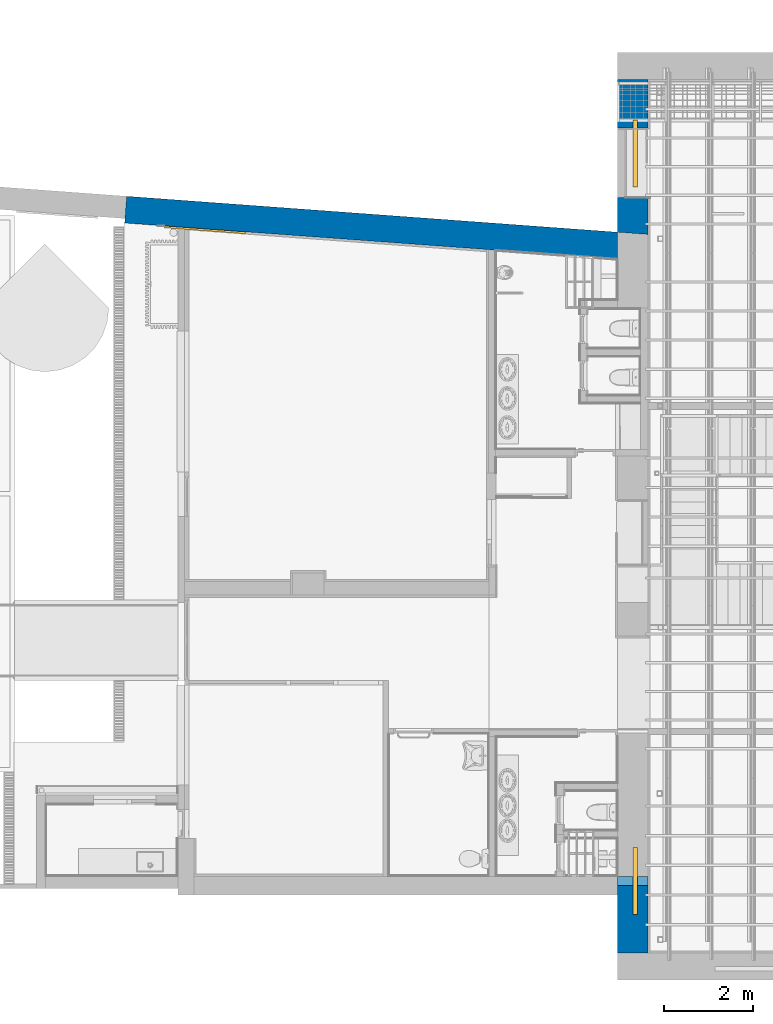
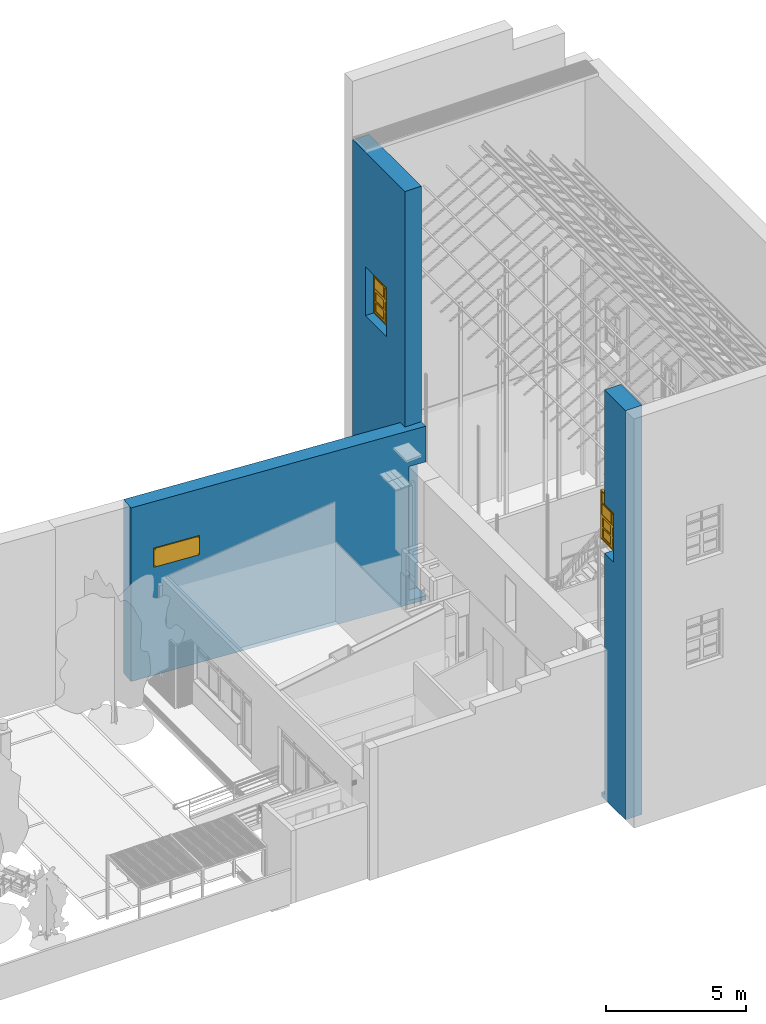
"""IFC2X3 building model written with IfcOpenShell, lengths in metres."""

from ifc_helpers import new_model, entity, si_unit, converted_unit, derived_unit, direction, frame, frame_2d, origin, origin_2d_with_axis, place, context, subcontext, project, spatial, polyline, rectangle, outline, extrude, faceted_brep, source, transform, mapped, material, material_list, layer, layer_set, type_object, type_shapes, element, fill, save


model = new_model("IFC2X3")

# Units and contexts
model_context = context("Model", 3, precision=1e-05, world=origin(), true_north=direction((6.12303176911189e-17, 1.0)))
body_context = subcontext(model_context, "Body", "Model", "MODEL_VIEW")
ifc_project = project(units=[si_unit("LENGTHUNIT", "METRE"), si_unit("AREAUNIT", "SQUARE_METRE"), si_unit("VOLUMEUNIT", "CUBIC_METRE"), converted_unit("PLANEANGLEUNIT", "DEGREE", entity("IfcRatioMeasure", 0.0174532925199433), si_unit("PLANEANGLEUNIT", "RADIAN"), dimensions=[0, 0, 0, 0, 0, 0, 0]), si_unit("MASSUNIT", "GRAM", prefix="KILO"), derived_unit("MASSDENSITYUNIT", [(si_unit("MASSUNIT", "GRAM", prefix="KILO"), 1), (si_unit("LENGTHUNIT", "METRE"), -3)]), derived_unit("MOMENTOFINERTIAUNIT", [(si_unit("LENGTHUNIT", "METRE"), 4)]), si_unit("TIMEUNIT", "SECOND"), si_unit("FREQUENCYUNIT", "HERTZ"), si_unit("THERMODYNAMICTEMPERATUREUNIT", "DEGREE_CELSIUS"), derived_unit("THERMALTRANSMITTANCEUNIT", [(si_unit("MASSUNIT", "GRAM", prefix="KILO"), 1), (si_unit("THERMODYNAMICTEMPERATUREUNIT", "KELVIN"), -1), (si_unit("TIMEUNIT", "SECOND"), -3)]), derived_unit("VOLUMETRICFLOWRATEUNIT", [(si_unit("LENGTHUNIT", "METRE"), 3), (si_unit("TIMEUNIT", "SECOND"), -1)]), si_unit("ELECTRICCURRENTUNIT", "AMPERE"), si_unit("ELECTRICVOLTAGEUNIT", "VOLT"), si_unit("POWERUNIT", "WATT"), si_unit("FORCEUNIT", "NEWTON", prefix="KILO"), si_unit("ILLUMINANCEUNIT", "LUX"), si_unit("LUMINOUSFLUXUNIT", "LUMEN"), si_unit("LUMINOUSINTENSITYUNIT", "CANDELA"), derived_unit("USERDEFINED", [(si_unit("MASSUNIT", "GRAM", prefix="KILO"), -1), (si_unit("LENGTHUNIT", "METRE"), -2), (si_unit("TIMEUNIT", "SECOND"), 3), (si_unit("LUMINOUSFLUXUNIT", "LUMEN"), 1)]), derived_unit("LINEARVELOCITYUNIT", [(si_unit("LENGTHUNIT", "METRE"), 1), (si_unit("TIMEUNIT", "SECOND"), -1)]), si_unit("PRESSUREUNIT", "PASCAL"), derived_unit("USERDEFINED", [(si_unit("LENGTHUNIT", "METRE"), -2), (si_unit("MASSUNIT", "GRAM", prefix="KILO"), 1), (si_unit("TIMEUNIT", "SECOND"), -2)]), derived_unit("LINEARFORCEUNIT", [(si_unit("MASSUNIT", "GRAM", prefix="KILO"), 1), (si_unit("LENGTHUNIT", "METRE"), 1), (si_unit("TIMEUNIT", "SECOND"), -2), (si_unit("LENGTHUNIT", "METRE"), -1)]), derived_unit("PLANARFORCEUNIT", [(si_unit("MASSUNIT", "GRAM", prefix="KILO"), 1), (si_unit("LENGTHUNIT", "METRE"), 1), (si_unit("TIMEUNIT", "SECOND"), -2), (si_unit("LENGTHUNIT", "METRE"), -2)])], contexts=[model_context])

# Site, building, storey
site_placement = place(None, origin())
site = spatial("IfcSite", under=ifc_project, at=site_placement, Name="Superficie", CompositionType="ELEMENT")
building_placement = place(site_placement, origin())
building = spatial("IfcBuilding", under=site, at=building_placement, Name="Telegestiones", CompositionType="ELEMENT")
storey_1_placement = place(building_placement, origin())
storey_1 = spatial("IfcBuildingStorey", under=building, at=storey_1_placement, Name="Nivel 0_NPT", CompositionType="ELEMENT", Elevation=0.0)

# Wall, opening, window
ifc_material_1 = material(Name="Muro por defecto")
ifc_layer_1 = layer(ifc_material_1, 0.6)
ifc_layer_set_1 = layer_set([ifc_layer_1], Name="Muro básico:ARQ-MU-EX-60-Gen")
wall_type_1 = type_object("IfcWallType", Name="Muro básico:ARQ-MU-EX-60-Gen", PredefinedType="STANDARD", material=ifc_layer_set_1)
wall_1_placement = place(storey_1_placement, frame((-5.65247574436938, 10.8297679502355, -0.2), z_axis=(0.0, 0.0, 1.0), x_axis=(0.997331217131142, -0.0730098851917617, 0.0)))
wall_1 = element("IfcWall", 1, at=wall_1_placement, inside=storey_1, type_object=wall_type_1, Name="Muro básico:ARQ-MU-EX-60-Gen", ObjectType="Muro básico:ARQ-MU-EX-60-Gen", context=body_context, shape_type="Brep", body=[
    faceted_brep([(11.74, -0.299999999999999, 7.6), (11.0581803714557, -0.300000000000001, 7.6), (0.0, -0.299999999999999, 7.6), (0.0, -0.299999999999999, 0.0), (1.19237352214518, -0.300000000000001, 0.0), (1.34277491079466, -0.300000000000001, 0.0), (11.74, -0.299999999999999, 0.0), (11.74, -0.299999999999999, 0.18), (11.0581803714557, -0.300000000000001, 0.18), (11.0581803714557, -0.300000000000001, 6.04), (11.74, -0.299999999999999, 6.04), (2.71194562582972, -0.299999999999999, 4.76), (0.891945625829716, -0.300000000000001, 4.76), (0.891945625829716, -0.300000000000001, 5.57), (2.71194562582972, -0.299999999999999, 5.57), (2.71194562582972, 0.300000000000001, 4.76), (2.71194562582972, 0.300000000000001, 5.57), (0.891945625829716, 0.300000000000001, 5.57), (0.891945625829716, 0.300000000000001, 4.76), (11.6960768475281, 0.300000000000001, 7.6), (11.6960768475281, 0.300000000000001, 6.04), (11.0142572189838, 0.299999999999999, 6.04), (11.0142572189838, 0.299999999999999, 0.18), (11.6960768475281, 0.300000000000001, 0.18), (11.6960768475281, 0.300000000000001, 0.0), (11.0142572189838, 0.300000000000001, 0.0), (0.0, 0.300000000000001, 0.0), (0.0, 0.300000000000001, 7.6), (11.0142572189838, 0.299999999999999, 7.6), (11.7162212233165, 0.0248233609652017, 7.6), (0.0, -0.200021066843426, 7.6), (0.0, -0.200021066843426, 0.0)], [[[0, 1, 2, 3, 4, 5, 6, 7, 8, 9, 10], [11, 12, 13, 14]], [[15, 16, 17, 18], [19, 20, 21, 22, 23, 24, 25, 26, 27, 28]], [[2, 1, 0, 29, 19, 28, 27, 30]], [[3, 2, 30, 27, 26, 31]], [[6, 5, 4, 3, 31, 26, 25, 24]], [[22, 8, 7, 23]], [[7, 6, 24, 23]], [[16, 15, 11, 14]], [[17, 16, 14, 13]], [[18, 17, 13, 12]], [[15, 18, 12, 11]], [[20, 10, 9, 21]], [[8, 22, 21, 9]], [[0, 10, 20, 19, 29]]], outer=[[True, False], [False, True], [True], [True], [True], [True], [True], [True], [True], [True], [True], [True], [True], [True]]),
])
opening_1_placement = place(wall_1_placement, frame((2.71194562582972, 0.300000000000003, 4.76)))
opening_1 = element("IfcOpeningElement", 2, at=opening_1_placement, cuts=wall_1, Name="ARQ-VE-EX-Rejilla:182x81:1", ObjectType="Opening", context=body_context, shape_type="SweptSolid", body=[
    extrude(rectangle(XDim=0.81, YDim=1.82, at=frame_2d((0.405, 0.91), x_axis=(1.0, 0.0))), frame((0.0, 0.0, 0.0), z_axis=(0.0, -1.0, 0.0), x_axis=(0.0, 0.0, 1.0)), (0.0, 0.0, 1.0), 0.6),
])
ifc_material_2 = material(Name="Revestimiento de metal")
ifc_material_3 = material(Name="Acero")
ifc_material_list_1 = material_list([ifc_material_2, ifc_material_2, ifc_material_2, ifc_material_2, ifc_material_3, ifc_material_3, ifc_material_3, ifc_material_3, ifc_material_3, ifc_material_3])
ifc_material_list_2 = material_list([ifc_material_2, ifc_material_2, ifc_material_2, ifc_material_2, ifc_material_3, ifc_material_3, ifc_material_3, ifc_material_3, ifc_material_3, ifc_material_3])
window_style_1 = type_object("IfcWindowStyle", Name="ARQ-VE-EX-Rejilla:182x81", ConstructionType="NOTDEFINED", OperationType="NOTDEFINED", ParameterTakesPrecedence=False, Sizeable=False, material=ifc_material_list_2)
shared_shape_1 = source(origin(), body_context, "Body", "SweptSolid", [
    extrude(rectangle(XDim=0.00499999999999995, YDim=0.834999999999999, at=origin_2d_with_axis()), frame((0.477500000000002, 0.63950000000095, 0.420000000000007), z_axis=(0.0, 0.0, 1.0), x_axis=(0.0, 1.0, 0.0)), (0.0, 0.0, 1.0), 0.329999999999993),
    extrude(rectangle(XDim=0.00499999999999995, YDim=0.834999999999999, at=origin_2d_with_axis()), frame((0.477500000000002, 0.63950000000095, 0.0600000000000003), z_axis=(0.0, 0.0, 1.0), x_axis=(0.0, 1.0, 0.0)), (0.0, 0.0, 1.0), 0.330000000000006),
    extrude(rectangle(XDim=0.00499999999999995, YDim=0.835000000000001, at=frame_2d((0.0, -8.32667268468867e-17), x_axis=(1.0, 0.0))), frame((1.3425, 0.639500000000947, 0.0600000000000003), z_axis=(0.0, 0.0, 1.0), x_axis=(0.0, 1.0, 0.0)), (0.0, 0.0, 1.0), 0.330000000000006),
    extrude(rectangle(XDim=0.00499999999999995, YDim=0.835000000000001, at=frame_2d((0.0, -1.11022302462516e-16), x_axis=(1.0, 0.0))), frame((1.3425, 0.639500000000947, 0.420000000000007), z_axis=(0.0, 0.0, 1.0), x_axis=(0.0, 1.0, 0.0)), (0.0, 0.0, 1.0), 0.329999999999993),
    extrude(outline(polyline([(0.0149999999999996, -0.0150000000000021), (0.850000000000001, -0.0150000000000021), (0.850000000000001, 0.0149999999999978), (0.0149999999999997, 0.0149999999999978), (0.0149999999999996, 0.345000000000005), (-0.0150000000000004, 0.345000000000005), (-0.0150000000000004, 0.0149999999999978), (-0.849999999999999, 0.0149999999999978), (-0.849999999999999, -0.0150000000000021), (-0.0150000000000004, -0.0150000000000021), (-0.0150000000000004, -0.344999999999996), (0.0149999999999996, -0.344999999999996), (0.0149999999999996, -0.0150000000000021)])), frame((0.910000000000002, 0.637000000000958, 0.405000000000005), z_axis=(0.0, 1.0, 0.0), x_axis=(1.0, 0.0, 0.0)), (0.0, 0.0, 1.0), 0.00500000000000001),
    extrude(outline(polyline([(-0.91, -0.405), (0.91, -0.405), (0.91, 0.405), (-0.91, 0.405), (-0.91, -0.405)]), holes=[polyline([(-0.867999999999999, -0.363), (-0.867999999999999, 0.363), (0.868000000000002, 0.363), (0.868000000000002, -0.363), (-0.867999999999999, -0.363)])]), frame((0.910000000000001, 0.600000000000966, 0.405), z_axis=(0.0, 1.0, 0.0), x_axis=(1.0, 0.0, 0.0)), (0.0, 0.0, 1.0), 0.042),
    extrude(outline(polyline([(-0.00766666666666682, -0.0103333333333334), (-0.00266666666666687, -0.0103333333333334), (-0.00266666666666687, 0.00266666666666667), (0.0103333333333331, 0.00266666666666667), (0.0103333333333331, 0.00766666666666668), (-0.00766666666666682, 0.00766666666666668), (-0.00766666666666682, -0.0103333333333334)])), frame((0.0600000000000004, 0.634333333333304, 0.760333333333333), z_axis=(1.0, 0.0, 0.0), x_axis=(0.0, 0.0, -1.0)), (0.0, 0.0, 1.0), 1.7),
    extrude(outline(polyline([(-0.0103333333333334, -0.00766666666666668), (0.00766666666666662, -0.00766666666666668), (0.00766666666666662, 0.0103333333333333), (0.00266666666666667, 0.0103333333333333), (0.00266666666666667, -0.00266666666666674), (-0.0103333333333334, -0.00266666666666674), (-0.0103333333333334, -0.00766666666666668)])), frame((0.0600000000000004, 0.634333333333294, 0.049666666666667), z_axis=(1.0, 0.0, 0.0), x_axis=(0.0, 1.0, 0.0)), (0.0, 0.0, 1.0), 1.7),
    extrude(outline(polyline([(-0.00766666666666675, -0.00766666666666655), (0.0103333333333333, -0.00766666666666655), (0.0103333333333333, -0.0026666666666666), (-0.00266666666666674, -0.0026666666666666), (-0.00266666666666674, 0.0103333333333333), (-0.00766666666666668, 0.0103333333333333), (-0.00766666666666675, -0.00766666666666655)])), frame((0.0496666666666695, 0.634333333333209, 0.0600000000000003), z_axis=(0.0, 0.0, 1.0), x_axis=(0.0, -1.0, 0.0)), (0.0, 0.0, 1.0), 0.69),
    extrude(outline(polyline([(-0.00766666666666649, -0.00766666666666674), (0.0103333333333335, -0.00766666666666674), (0.0103333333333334, -0.00266666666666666), (-0.00266666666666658, -0.00266666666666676), (-0.00266666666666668, 0.0103333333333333), (-0.00766666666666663, 0.0103333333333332), (-0.00766666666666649, -0.00766666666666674)])), frame((1.77033333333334, 0.634333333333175, 0.0600000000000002), z_axis=(0.0, 0.0, 1.0), x_axis=(-1.0, 0.0, 0.0)), (0.0, 0.0, 1.0), 0.69),
])
type_shapes(window_style_1, [shared_shape_1])
window_1_placement = place(opening_1_placement, frame((0.0, 0.0, 0.0), z_axis=(0.0, 0.0, 1.0), x_axis=(-1.0, 0.0, 0.0)))
window_1 = element("IfcWindow", 3, at=window_1_placement, inside=storey_1, type_object=window_style_1, material=ifc_material_list_1, Name="ARQ-VE-EX-Rejilla:182x81", ObjectType="ARQ-VE-EX-Rejilla:182x81", OverallHeight=0.810000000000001, OverallWidth=1.82, context=body_context, shape_type="MappedRepresentation", body=[
    mapped(shared_shape_1, transform((0.0, 0.0, 0.0), scale=1.0)),
])
fill(opening_1, window_1)

# Wall, opening
ifc_material_4 = material(Name="Albañilería expuesta")
ifc_layer_2 = layer(ifc_material_4, 0.12)
ifc_layer_3 = layer(ifc_material_1, 0.56)
ifc_layer_set_2 = layer_set([ifc_layer_2, ifc_layer_3], Name="Muro básico:ARQ-MU-EX-68-Lad")
wall_type_2 = type_object("IfcWallType", Name="Muro básico:ARQ-MU-EX-68-Lad", PredefinedType="STANDARD", material=ifc_layer_set_2)
wall_2_placement = place(storey_1_placement, frame((5.69428977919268, -4.086392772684, -0.2), z_axis=(0.0, 0.0, 1.0), x_axis=(0.0, -1.0, 0.0)))
wall_2 = element("IfcWall", 4, at=wall_2_placement, inside=storey_1, type_object=wall_type_2, Name="Muro básico:ARQ-MU-EX-68-Lad", ObjectType="Muro básico:ARQ-MU-EX-68-Lad", context=body_context, shape_type="Brep", body=[
    faceted_brep([(0.0, -0.34, 0.0), (0.420000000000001, -0.34, 0.0), (1.71997435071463, -0.34, 0.0), (1.71997435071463, -0.34, 17.9), (0.21, -0.34, 17.9), (0.21, -0.34, 12.9), (0.850000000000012, -0.34, 12.9), (0.850000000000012, -0.34, 10.75), (0.21, -0.34, 10.75), (0.21, -0.34, 6.04), (0.21, -0.34, 0.18), (0.0, -0.34, 0.18), (1.71997435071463, 0.340000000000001, 0.0), (0.0, 0.34, 0.0), (0.0, 0.340000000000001, 0.18), (0.21, 0.34, 0.18), (0.21, 0.34, 6.04), (0.21, 0.34, 10.75), (0.929892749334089, 0.34, 10.75), (0.929892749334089, 0.34, 12.9), (0.21, 0.34, 12.9), (0.210000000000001, 0.34, 17.9), (1.71997435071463, 0.340000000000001, 17.9), (0.850000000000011, -0.0494771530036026, 12.9), (0.850000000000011, -0.0494771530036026, 10.75)], [[[0, 1, 2, 3, 4, 5, 6, 7, 8, 9, 10, 11]], [[12, 13, 14, 15, 16, 17, 18, 19, 20, 21, 22]], [[3, 2, 12, 22]], [[0, 11, 14, 13]], [[6, 5, 20, 19, 23]], [[7, 6, 23, 24]], [[8, 7, 24, 18, 17]], [[2, 1, 0, 13, 12]], [[4, 3, 22, 21]], [[10, 15, 14, 11]], [[15, 10, 9, 8, 17, 16]], [[23, 19, 18, 24]], [[4, 21, 20, 5]]]),
])
opening_2_placement = place(wall_2_placement, frame((-0.649999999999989, -0.339999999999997, 10.75)))
opening_2 = element("IfcOpeningElement", 5, at=opening_2_placement, cuts=wall_2, Name="ARQ-VE-EX-215x170-Ace:ARQ-VE-EX-215x170-Ace:1", ObjectType="Opening", context=body_context, shape_type="SweptSolid", body=[
    extrude(rectangle(XDim=2.15, YDim=1.5, at=frame_2d((1.075, 0.75), x_axis=(1.0, 0.0))), frame((0.0, 0.0, 0.0), z_axis=(0.0, 1.0, 0.0), x_axis=(0.0, 0.0, 1.0)), (0.0, 0.0, 1.0), 0.68),
])

# Storey
storey_2_placement = place(building_placement, frame((0.0, 0.0, 4.94)))
storey_2 = spatial("IfcBuildingStorey", under=building, at=storey_2_placement, Name="Nivel 1_NPT", CompositionType="ELEMENT", Elevation=4.94)

# Window
ifc_material_5 = material(Name="Nogal")
ifc_material_6 = material(Name="Vidrio")
ifc_material_list_3 = material_list([ifc_material_5, ifc_material_6])
ifc_material_list_4 = material_list([ifc_material_5, ifc_material_6, ifc_material_6, ifc_material_6, ifc_material_6, ifc_material_5, ifc_material_6, ifc_material_6, ifc_material_6, ifc_material_6, ifc_material_5])
window_style_2 = type_object("IfcWindowStyle", Name="ARQ-VE-EX-215x170-Ace:ARQ-VE-EX-215x170-Ace", ConstructionType="NOTDEFINED", OperationType="NOTDEFINED", ParameterTakesPrecedence=False, Sizeable=False, material=ifc_material_list_4)
shared_shape_2 = source(origin(), body_context, "Body", "SweptSolid", [
    extrude(outline(polyline([(-0.75, -1.075), (0.75, -1.075), (0.75, 1.075), (-0.75, 1.075), (-0.75, -1.075)]), holes=[polyline([(0.7, -0.500000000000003), (0.0249999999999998, -0.500000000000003), (0.0249999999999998, -0.0249999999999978), (0.7, -0.0250000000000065), (0.7, -0.500000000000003)]), polyline([(0.0249999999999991, -1.025), (0.0249999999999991, -0.549999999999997), (0.7, -0.550000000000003), (0.7, -1.025), (0.0249999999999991, -1.025)]), polyline([(-0.7, -0.550000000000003), (-0.0250000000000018, -0.550000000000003), (-0.0250000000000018, -1.025), (-0.7, -1.025), (-0.7, -0.550000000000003)]), polyline([(0.7, 0.0250000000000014), (-0.7, 0.0250000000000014), (-0.7, 1.025), (0.7, 1.025), (0.7, 0.0250000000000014)]), polyline([(-0.0250000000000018, -0.0250000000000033), (-0.0250000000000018, -0.499999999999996), (-0.7, -0.500000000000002), (-0.7, -0.0250000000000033), (-0.0250000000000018, -0.0250000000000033)])]), frame((0.75, 0.34, 1.075), z_axis=(0.0, 1.0, 0.0), x_axis=(1.0, 0.0, 0.0)), (0.0, 0.0, 1.0), 0.1),
    extrude(rectangle(XDim=0.01, YDim=0.675000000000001, at=frame_2d((-2.16840434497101e-18, -2.77555756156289e-17), x_axis=(1.0, 0.0))), frame((1.1125, 0.365, 1.1), z_axis=(0.0, 0.0, 1.0), x_axis=(0.0, 1.0, 0.0)), (0.0, 0.0, 1.0), 0.475000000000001),
    extrude(rectangle(XDim=0.01, YDim=0.674999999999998, at=frame_2d((2.16840434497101e-18, 0.0), x_axis=(1.0, 0.0))), frame((0.387499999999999, 0.365, 1.625), z_axis=(0.0, 0.0, 1.0), x_axis=(0.0, 1.0, 0.0)), (0.0, 0.0, 1.0), 0.474999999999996),
    extrude(rectangle(XDim=0.01, YDim=0.675000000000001, at=frame_2d((-2.16840434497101e-18, -2.77555756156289e-17), x_axis=(1.0, 0.0))), frame((1.1125, 0.365, 1.625), z_axis=(0.0, 0.0, 1.0), x_axis=(0.0, 1.0, 0.0)), (0.0, 0.0, 1.0), 0.475),
    extrude(rectangle(XDim=0.01, YDim=0.674999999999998, at=frame_2d((1.73472347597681e-18, 0.0), x_axis=(1.0, 0.0))), frame((0.387499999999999, 0.365, 1.1), z_axis=(0.0, 0.0, 1.0), x_axis=(0.0, 1.0, 0.0)), (0.0, 0.0, 1.0), 0.474999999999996),
    extrude(outline(polyline([(-0.499999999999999, -0.349999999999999), (0.500000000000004, -0.349999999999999), (0.5, 0.350000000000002), (-0.500000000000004, 0.349999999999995), (-0.499999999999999, -0.349999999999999)]), holes=[polyline([(0.430000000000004, -0.279999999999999), (0.0250000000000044, -0.279999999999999), (0.025000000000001, 0.279999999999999), (0.43, 0.280000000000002), (0.430000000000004, -0.279999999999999)]), polyline([(-0.024999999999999, 0.280000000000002), (-0.0249999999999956, -0.279999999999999), (-0.429999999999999, -0.279999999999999), (-0.430000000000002, 0.279999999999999), (-0.024999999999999, 0.280000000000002)])]), frame((0.399999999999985, 0.35, 0.549999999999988), z_axis=(0.0, 1.0, 0.0), x_axis=(0.0, 0.0, -1.0)), (0.0, 0.0, 1.0), 0.08),
    extrude(rectangle(XDim=0.02, YDim=0.56, at=frame_2d((4.33680868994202e-18, 0.0), x_axis=(1.0, 0.0))), frame((1.10000000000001, 0.39, 0.574999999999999), z_axis=(0.0, 0.0, 1.0), x_axis=(0.0, 1.0, 0.0)), (0.0, 0.0, 1.0), 0.405000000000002),
    extrude(rectangle(XDim=0.02, YDim=0.56, at=frame_2d((4.33680868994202e-18, 2.77555756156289e-17), x_axis=(1.0, 0.0))), frame((0.4, 0.39, 0.574999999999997), z_axis=(0.0, 0.0, 1.0), x_axis=(0.0, 1.0, 0.0)), (0.0, 0.0, 1.0), 0.405000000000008),
    extrude(rectangle(XDim=0.02, YDim=0.56, at=frame_2d((4.33680868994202e-18, 2.77555756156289e-17), x_axis=(1.0, 0.0))), frame((0.4, 0.39, 0.12), z_axis=(0.0, 0.0, 1.0), x_axis=(0.0, 1.0, 0.0)), (0.0, 0.0, 1.0), 0.404999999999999),
    extrude(rectangle(XDim=0.02, YDim=0.56, at=frame_2d((4.33680868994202e-18, 0.0), x_axis=(1.0, 0.0))), frame((1.10000000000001, 0.39, 0.12), z_axis=(0.0, 0.0, 1.0), x_axis=(0.0, 1.0, 0.0)), (0.0, 0.0, 1.0), 0.404999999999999),
    extrude(outline(polyline([(-0.350000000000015, -0.500000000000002), (0.350000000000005, -0.500000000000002), (0.350000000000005, 0.500000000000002), (-0.349999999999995, 0.500000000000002), (-0.350000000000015, -0.500000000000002)]), holes=[polyline([(-0.279999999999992, 0.430000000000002), (0.280000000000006, 0.430000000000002), (0.280000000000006, 0.0250000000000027), (-0.279999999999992, 0.0250000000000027), (-0.279999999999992, 0.430000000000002)]), polyline([(0.280000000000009, -0.0249999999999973), (0.280000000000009, -0.430000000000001), (-0.279999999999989, -0.429999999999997), (-0.279999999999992, -0.0249999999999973), (0.280000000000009, -0.0249999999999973)])]), frame((1.1, 0.35, 0.550000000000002), z_axis=(0.0, 1.0, 0.0), x_axis=(1.0, 0.0, 0.0)), (0.0, 0.0, 1.0), 0.08),
])
type_shapes(window_style_2, [shared_shape_2])
window_2_placement = place(opening_2_placement, origin())
window_2 = element("IfcWindow", 6, at=window_2_placement, inside=storey_2, type_object=window_style_2, material=ifc_material_list_3, Name="ARQ-VE-EX-215x170-Ace:ARQ-VE-EX-215x170-Ace", ObjectType="ARQ-VE-EX-215x170-Ace:ARQ-VE-EX-215x170-Ace", OverallHeight=2.15, OverallWidth=1.5, context=body_context, shape_type="MappedRepresentation", body=[
    mapped(shared_shape_2, transform((0.0, 0.0, 0.0), scale=1.0)),
])

fill(opening_2, window_2)

# Wall, opening, window
wall_3_placement = place(storey_1_placement, frame((5.69428977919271, 9.99912509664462, -0.2), z_axis=(0.0, 0.0, 1.0), x_axis=(0.0, 1.0, 0.0)))
wall_3 = element("IfcWall", 7, at=wall_3_placement, inside=storey_1, type_object=wall_type_2, Name="Muro básico:ARQ-MU-EX-68-Lad", ObjectType="Muro básico:ARQ-MU-EX-68-Lad", context=body_context, shape_type="Brep", body=[
    faceted_brep([(0.275912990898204, -0.34, 0.0), (1.09698213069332, -0.34, 0.0), (1.09698213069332, -0.34, 0.2), (1.09698213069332, -0.34, 2.4), (2.65448213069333, -0.340000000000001, 2.4), (2.65448213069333, -0.340000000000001, 0.18), (2.64198213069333, -0.340000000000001, 0.18), (2.64198213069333, -0.340000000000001, 0.0), (3.74448213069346, -0.34, 0.0), (3.74448213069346, -0.34, 17.9), (0.0, -0.34, 17.9), (0.0, -0.34, 7.6), (0.275912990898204, -0.34, 7.6), (0.275912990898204, -0.34, 6.04), (0.275912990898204, -0.34, 0.180000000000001), (1.25890041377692, -0.340000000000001, 12.9), (2.91868591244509, -0.34, 12.9), (2.91868591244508, -0.34, 10.75), (1.25890041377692, -0.340000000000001, 10.75), (1.09698213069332, 0.340000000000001, 0.0), (0.325692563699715, 0.34, 0.0), (0.325692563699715, 0.339999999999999, 7.6), (0.0, 0.34, 7.6), (0.0, 0.34, 17.9), (3.74448213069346, 0.34, 17.9), (3.74448213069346, 0.34, 0.0), (2.64198213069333, 0.34, 0.0), (2.64198213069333, 0.34, 0.18), (2.65448213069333, 0.34, 0.18), (2.65448213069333, 0.34, 2.4), (2.62948213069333, 0.34, 2.4), (1.09698213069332, 0.340000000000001, 2.4), (2.838793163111, 0.34, 10.75), (2.838793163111, 0.34, 12.9), (1.338793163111, 0.34, 12.9), (1.338793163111, 0.34, 10.75), (2.838793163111, 0.0494771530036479, 10.75), (2.838793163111, 0.0494771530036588, 12.9), (1.338793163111, 0.0494771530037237, 12.9), (1.33879316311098, 0.0494771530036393, 10.75), (1.09698213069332, 0.169999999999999, 0.0), (1.09698213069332, 0.144999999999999, 2.4), (1.09698213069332, 0.169999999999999, 2.4), (2.64198213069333, 0.169999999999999, 0.0), (2.64198213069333, 0.169999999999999, 0.18)], [[[0, 1, 2, 3, 4, 5, 6, 7, 8, 9, 10, 11, 12, 13, 14], [15, 16, 17, 18]], [[19, 20, 21, 22, 23, 24, 25, 26, 27, 28, 29, 30, 31], [32, 33, 34, 35]], [[9, 8, 25, 24]], [[33, 32, 36, 37]], [[15, 38, 34, 33, 37, 16]], [[17, 36, 32, 35, 39, 18]], [[0, 14, 13, 12, 21, 20]], [[35, 34, 38, 39]], [[1, 0, 20, 19, 40]], [[10, 9, 24, 23]], [[11, 10, 23, 22]], [[11, 22, 21, 12]], [[4, 3, 41, 42, 31, 30, 29]], [[8, 7, 43, 26, 25]], [[1, 40, 19, 31, 42, 41, 3, 2]], [[26, 43, 7, 6, 44, 27]], [[28, 27, 44, 6, 5]], [[5, 4, 29, 28]], [[16, 37, 36, 17]], [[38, 15, 18, 39]]]),
])
opening_3_placement = place(wall_3_placement, frame((2.838793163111, 0.339999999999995, 10.75)))
opening_3 = element("IfcOpeningElement", 8, at=opening_3_placement, cuts=wall_3, Name="ARQ-VE-EX-215x170-Ace:ARQ-VE-EX-215x170-Ace:1", ObjectType="Opening", context=body_context, shape_type="SweptSolid", body=[
    extrude(rectangle(XDim=2.15, YDim=1.5, at=frame_2d((1.075, 0.750000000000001), x_axis=(1.0, 0.0))), frame((0.0, 0.0, 0.0), z_axis=(0.0, -1.0, 0.0), x_axis=(0.0, 0.0, 1.0)), (0.0, 0.0, 1.0), 0.68),
])
ifc_material_list_5 = material_list([ifc_material_5, ifc_material_6])
window_3_placement = place(opening_3_placement, frame((0.0, 0.0, 0.0), z_axis=(0.0, 0.0, 1.0), x_axis=(-1.0, 0.0, 0.0)))
window_3 = element("IfcWindow", 9, at=window_3_placement, inside=storey_2, type_object=window_style_2, material=ifc_material_list_5, Name="ARQ-VE-EX-215x170-Ace:ARQ-VE-EX-215x170-Ace", ObjectType="ARQ-VE-EX-215x170-Ace:ARQ-VE-EX-215x170-Ace", OverallHeight=2.15, OverallWidth=1.5, context=body_context, shape_type="MappedRepresentation", body=[
    mapped(shared_shape_2, transform((0.0, 0.0, 0.0), scale=1.0)),
])
fill(opening_3, window_3)

save(model, "model.ifc")
